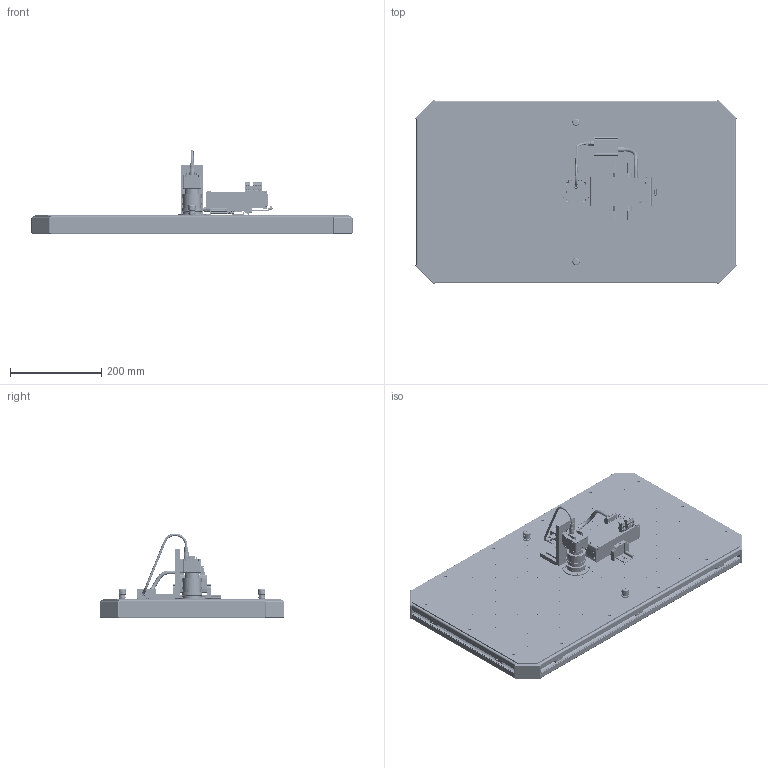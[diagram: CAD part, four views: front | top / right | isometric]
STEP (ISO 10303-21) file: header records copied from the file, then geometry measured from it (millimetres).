
FILE_DESCRIPTION (( 'STEP AP203' ), '1' );
FILE_NAME ('1058XX (Parts) (No LED) (2016-11-28).STEP', '2016-11-28T11:00:43', ( '' ), ( '' ), 'SwSTEP 2.0', 'SolidWorks 2016', '' );
FILE_SCHEMA (( 'CONFIG_CONTROL_DESIGN' ));
Products named in the file (5): 1058XX (CAM); 1058XX (Parts) (No LED) (2016-11-28); 1058XX - (House); 1058XX (EL); L_104405_Assembly_Lightning_Part
Assembly tree (4 placements, depth 2):
  1058XX (Parts) (No LED) (2016-11-28)
    1058XX (CAM)
    1058XX (EL)
    1058XX - (House)
    L_104405_Assembly_Lightning_Part
Bounding box: 704.02 x 404 x 186.24 mm (x, y, z)
Volume: 3333994.1 mm3; surface area: 2309509.9 mm2
Topology: 5 solids, 47 shells, 8716 faces, 24431 edges, 15668 vertices
Faces by surface type: plane 5222, cylinder 2484, cone 526, bspline 433, torus 51
Entity records: 302172 total; most frequent: CARTESIAN_POINT 78194, ORIENTED_EDGE 48642, DIRECTION 44044, EDGE_CURVE 24321, LINE 16458, VECTOR 16458, VERTEX_POINT 15662, AXIS2_PLACEMENT_3D 13793
